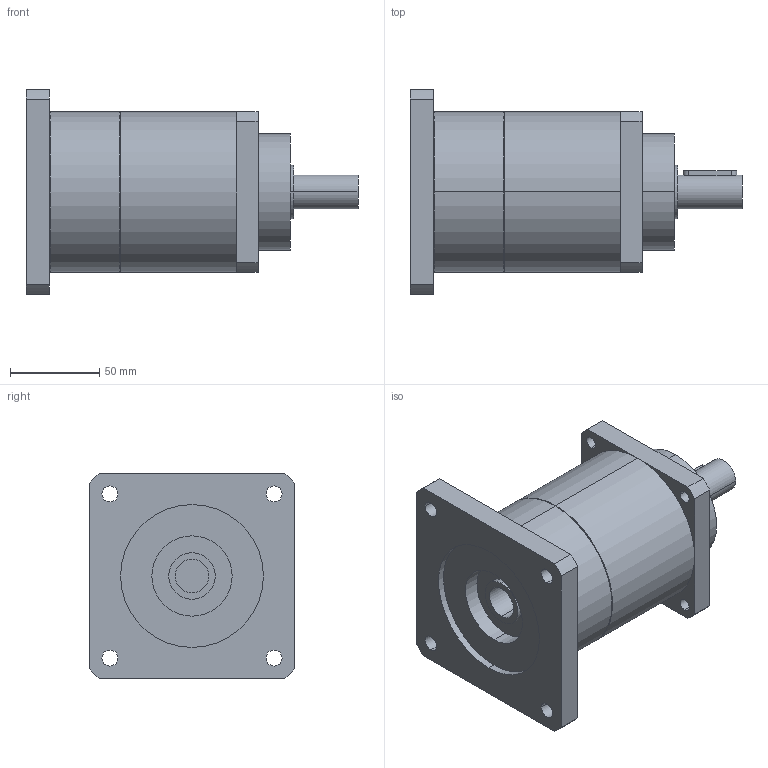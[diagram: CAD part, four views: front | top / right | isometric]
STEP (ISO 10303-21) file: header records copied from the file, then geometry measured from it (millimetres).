
FILE_DESCRIPTION(('CoCreate Modeling STEP Export'),'2;1');
FILE_NAME('GPT90_ig-9-12-16-20-25-28-35-40-50-70-100_19_B5T_19_P30.stp','2015-02-04T11:33:17',(''),(''),'CoCreate Modeling STEP processor for AP214 (Solid Model)','CoCreate Modeling 16.00C 25-Feb-2009 (C) Parametric Technology GmbH','');
FILE_SCHEMA(('AUTOMOTIVE_DESIGN { 1 0 10303 214 1 1 1 1 }'));
Length unit declared in the file: millimetre
Products named in the file (2): GPT90_ig-9-12-16-20-25-28-35-40-50-70-100_19_B5T_19_P30
Assembly tree (1 placements, depth 2):
  GPT90_ig-9-12-16-20-25-28-35-40-50-70-100_19_B5T_19_P30
    GPT90_ig-9-12-16-20-25-28-35-40-50-70-100_19_B5T_19_P30
Bounding box: 186 x 115 x 115 mm (x, y, z)
Volume: 959064.6 mm3; surface area: 82593.8 mm2
Topology: 1 solids, 1 shells, 77 faces, 206 edges, 141 vertices
Faces by surface type: cylinder 46, plane 27, cone 4
Entity records: 2596 total; most frequent: CARTESIAN_POINT 742, ORIENTED_EDGE 412, DIRECTION 324, EDGE_CURVE 206, VERTEX_POINT 141, AXIS2_PLACEMENT_3D 120, EDGE_LOOP 103, VECTOR 84
